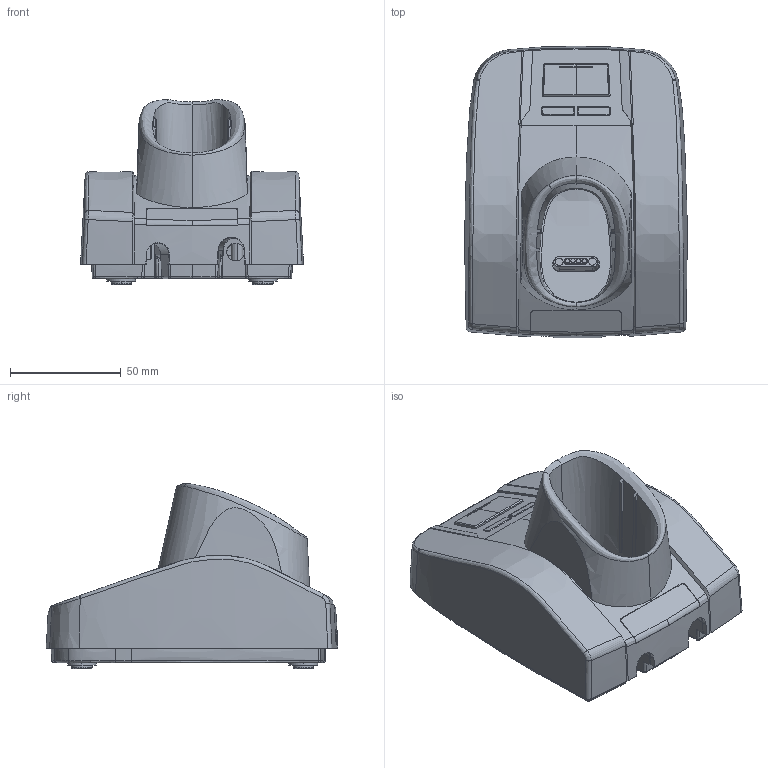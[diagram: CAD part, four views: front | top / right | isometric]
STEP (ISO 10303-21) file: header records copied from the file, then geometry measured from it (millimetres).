
FILE_DESCRIPTION((''),'2;1');
FILE_NAME('IDH3000BASE22222','2024-09-20T15:04:42',('lizhoupeng'),(''),'CREO PARAMETRIC BY PTC INC, 2020044','CREO PARAMETRIC BY PTC INC, 2020044','');
FILE_SCHEMA(('CONFIG_CONTROL_DESIGN'));
Products named in the file (1): IDH3000BASE22222
Bounding box: 100.71 x 131.67 x 83.72 mm (x, y, z)
Topology: 7 solids, 10 shells, 1791 faces, 5373 edges, 3604 vertices
Faces by surface type: plane 754, cylinder 415, bspline 331, cone 174, extrusion 64, sphere 30, torus 23
Entity records: 109474 total; most frequent: CARTESIAN_POINT 65653, ORIENTED_EDGE 10323, DIRECTION 7133, EDGE_CURVE 5328, VERTEX_POINT 3601, AXIS2_PLACEMENT_3D 2459, VECTOR 2215, B_SPLINE_CURVE_WITH_KNOTS 2171
